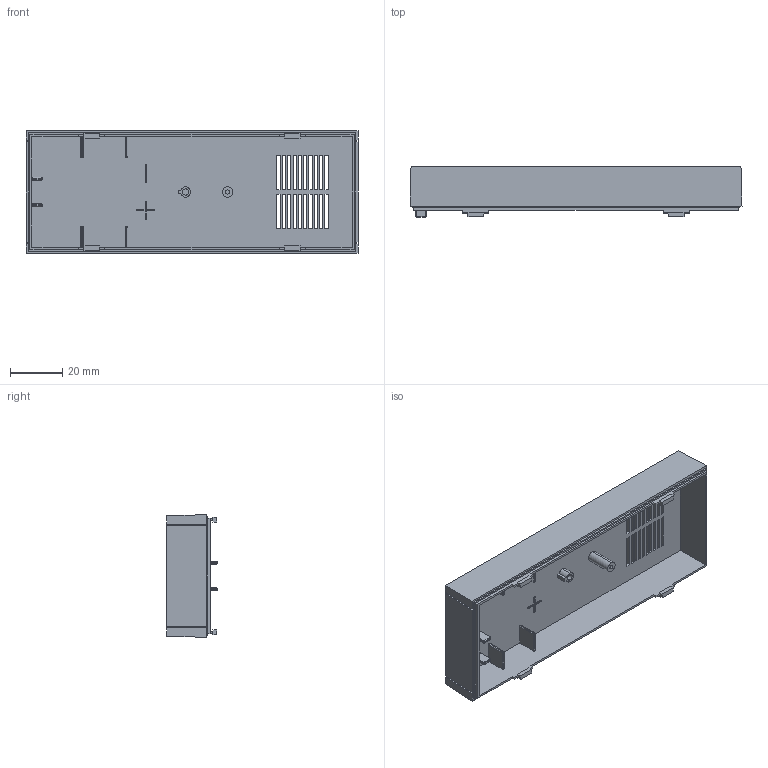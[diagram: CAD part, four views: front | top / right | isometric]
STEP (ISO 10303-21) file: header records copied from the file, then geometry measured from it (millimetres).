
FILE_DESCRIPTION (( 'STEP AP214' ), '1' );
FILE_NAME ('Tapa PP7A.STEP', '2019-11-04T09:00:38', ( 'aaa' ), ( '' ), 'SwSTEP 2.0', 'SolidWorks 2014', '' );
FILE_SCHEMA (( 'AUTOMOTIVE_DESIGN' ));
Length unit declared in the file: millimetre
Products named in the file (1): Tapa PP7A
Bounding box: 127.02 x 19.2 x 46.92 mm (x, y, z)
Volume: 25448.8 mm3; surface area: 24679.8 mm2
Topology: 1 solids, 1 shells, 268 faces, 780 edges, 488 vertices
Faces by surface type: plane 207, cylinder 45, sphere 16
Entity records: 8660 total; most frequent: ORIENTED_EDGE 1528, CARTESIAN_POINT 1521, DIRECTION 1392, EDGE_CURVE 764, LINE 674, VECTOR 674, VERTEX_POINT 488, AXIS2_PLACEMENT_3D 359
